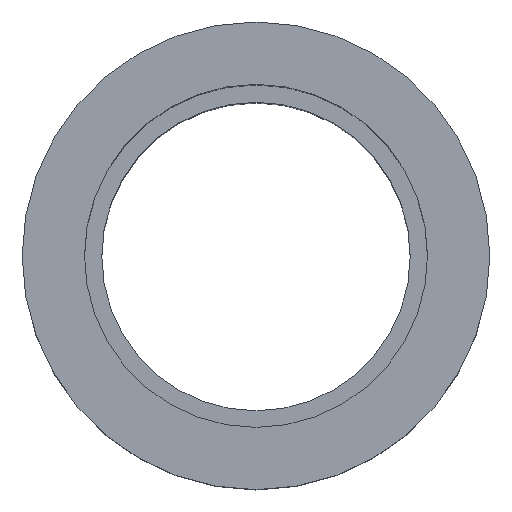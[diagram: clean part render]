
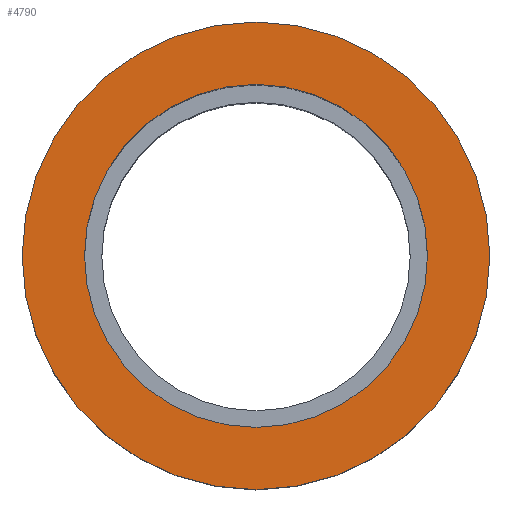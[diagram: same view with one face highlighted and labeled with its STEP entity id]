
A CAD part, top view. The second image highlights one B-rep face of the part: STEP entity #4790.
In plain terms, the highlighted planar face has unit normal (0, 0, 1) as drawn and (1, 0, 0) by its records, which use the part's own axes.
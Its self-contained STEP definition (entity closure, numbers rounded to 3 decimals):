
#4440=CARTESIAN_POINT('',(119.276,56.963,0.));
#4450=DIRECTION('',(1.,0.,-0.));
#4460=DIRECTION('',(0.,1.,0.));
#4470=AXIS2_PLACEMENT_3D('',#4440,#4450,#4460);
#4480=PLANE('',#4470);
#4490=CARTESIAN_POINT('',(119.276,39.288,0.));
#4500=DIRECTION('',(1.,0.,0.));
#4510=DIRECTION('',(0.,1.,0.));
#4520=AXIS2_PLACEMENT_3D('',#4490,#4500,#4510);
#4530=CIRCLE('',#4520,13.9);
#4540=CARTESIAN_POINT('',(119.276,53.188,0.));
#4550=VERTEX_POINT('',#4540);
#4560=CARTESIAN_POINT('',(119.276,25.388,0.));
#4570=VERTEX_POINT('',#4560);
#4580=EDGE_CURVE('',#4550,#4570,#4530,.T.);
#4590=ORIENTED_EDGE('',*,*,#4580,.F.);
#4600=EDGE_CURVE('',#4570,#4550,#4530,.T.);
#4610=ORIENTED_EDGE('',*,*,#4600,.F.);
#4620=EDGE_LOOP('',(#4610,#4590));
#4630=FACE_BOUND('',#4620,.T.);
#4640=CARTESIAN_POINT('',(119.276,39.288,0.));
#4650=DIRECTION('',(-1.,0.,0.));
#4660=DIRECTION('',(0.,-1.,0.));
#4670=AXIS2_PLACEMENT_3D('',#4640,#4650,#4660);
#4680=CIRCLE('',#4670,18.95);
#4690=CARTESIAN_POINT('',(119.276,20.338,0.));
#4700=VERTEX_POINT('',#4690);
#4710=CARTESIAN_POINT('',(119.276,58.238,0.));
#4720=VERTEX_POINT('',#4710);
#4730=EDGE_CURVE('',#4700,#4720,#4680,.T.);
#4740=ORIENTED_EDGE('',*,*,#4730,.F.);
#4750=EDGE_CURVE('',#4720,#4700,#4680,.T.);
#4760=ORIENTED_EDGE('',*,*,#4750,.F.);
#4770=EDGE_LOOP('',(#4760,#4740));
#4780=FACE_OUTER_BOUND('',#4770,.T.);
#4790=ADVANCED_FACE('',(#4630,#4780),#4480,.T.);
